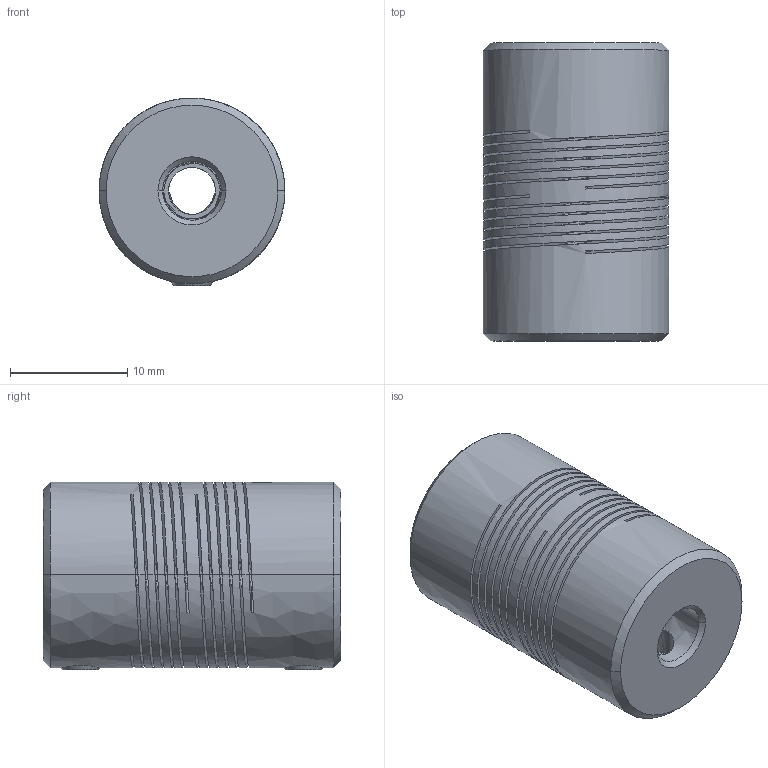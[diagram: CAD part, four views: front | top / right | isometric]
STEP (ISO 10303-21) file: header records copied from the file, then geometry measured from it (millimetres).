
FILE_DESCRIPTION((''),'2;1');
FILE_NAME('710_16','2026-02-24T',('SYSTEM'),(''),'PRO/ENGINEER BY PARAMETRIC TECHNOLOGY CORPORATION, 2016360','PRO/ENGINEER BY PARAMETRIC TECHNOLOGY CORPORATION, 2016360','');
FILE_SCHEMA(('AUTOMOTIVE_DESIGN { 1 0 10303 214 1 1 1 1 }'));
Length unit declared in the file: inch
Products named in the file (1): 710_16
Bounding box: 15.83 x 25.4 x 16.01 mm (x, y, z)
Volume: 4055.1 mm3; surface area: 5975.2 mm2
Topology: 1 solids, 1 shells, 112 faces, 334 edges, 216 vertices
Faces by surface type: bspline 112
Entity records: 8711 total; most frequent: CARTESIAN_POINT 6197, ORIENTED_EDGE 660, EDGE_CURVE 330, B_SPLINE_CURVE_WITH_KNOTS 230, VERTEX_POINT 216, EDGE_LOOP 122, FACE_OUTER_BOUND 112, ADVANCED_FACE 112
